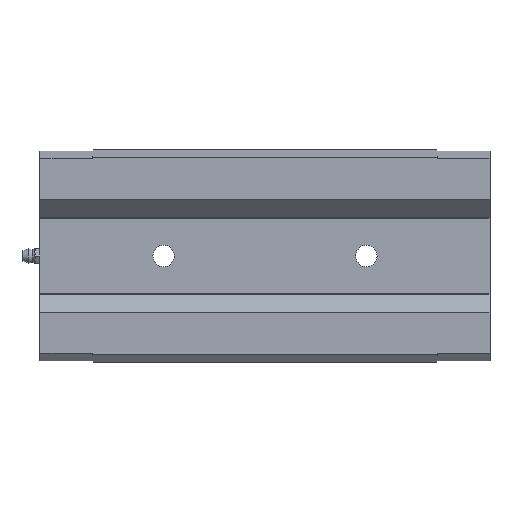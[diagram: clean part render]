
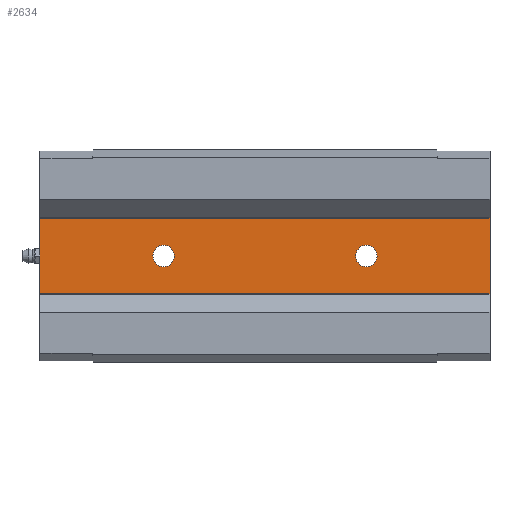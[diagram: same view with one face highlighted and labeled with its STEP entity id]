
A CAD part, front view. The second image highlights one B-rep face of the part: STEP entity #2634.
In plain terms, the highlighted planar face has unit normal (0, -1, 0).
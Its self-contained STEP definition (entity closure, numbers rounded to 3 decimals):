
#187=CIRCLE('',#2885,5.053);
#188=CIRCLE('',#2886,5.053);
#737=ORIENTED_EDGE('',*,*,#1208,.F.);
#738=ORIENTED_EDGE('',*,*,#1209,.F.);
#739=ORIENTED_EDGE('',*,*,#1034,.F.);
#740=ORIENTED_EDGE('',*,*,#1207,.F.);
#741=ORIENTED_EDGE('',*,*,#977,.T.);
#742=ORIENTED_EDGE('',*,*,#1210,.T.);
#977=EDGE_CURVE('',#1329,#1328,#1575,.T.);
#1034=EDGE_CURVE('',#1382,#1383,#1611,.T.);
#1207=EDGE_CURVE('',#1329,#1382,#1757,.T.);
#1208=EDGE_CURVE('',#1477,#1477,#187,.T.);
#1209=EDGE_CURVE('',#1478,#1478,#188,.T.);
#1210=EDGE_CURVE('',#1328,#1383,#1758,.T.);
#1328=VERTEX_POINT('',#3867);
#1329=VERTEX_POINT('',#3869);
#1382=VERTEX_POINT('',#3979);
#1383=VERTEX_POINT('',#3981);
#1477=VERTEX_POINT('',#4330);
#1478=VERTEX_POINT('',#4332);
#1575=LINE('',#3868,#1793);
#1611=LINE('',#3980,#1829);
#1757=LINE('',#4327,#1975);
#1758=LINE('',#4333,#1976);
#1793=VECTOR('',#3072,1000.);
#1829=VECTOR('',#3152,1000.);
#1975=VECTOR('',#3512,1000.);
#1976=VECTOR('',#3519,1000.);
#2089=EDGE_LOOP('',(#737));
#2090=EDGE_LOOP('',(#738));
#2091=EDGE_LOOP('',(#739,#740,#741,#742));
#2321=FACE_BOUND('',#2089,.T.);
#2322=FACE_BOUND('',#2090,.T.);
#2323=FACE_BOUND('',#2091,.T.);
#2521=PLANE('',#2884);
#2634=ADVANCED_FACE('',(#2321,#2322,#2323),#2521,.T.);
#2884=AXIS2_PLACEMENT_3D('',#4328,#3513,#3514);
#2885=AXIS2_PLACEMENT_3D('',#4329,#3515,#3516);
#2886=AXIS2_PLACEMENT_3D('',#4331,#3517,#3518);
#3072=DIRECTION('',(0.,0.,1.));
#3152=DIRECTION('',(0.,0.,1.));
#3512=DIRECTION('',(-1.,0.,0.));
#3513=DIRECTION('',(0.,-1.,0.));
#3514=DIRECTION('',(0.,0.,-1.));
#3515=DIRECTION('',(0.,-1.,0.));
#3516=DIRECTION('',(0.,0.,-1.));
#3517=DIRECTION('',(0.,-1.,0.));
#3518=DIRECTION('',(0.,0.,-1.));
#3519=DIRECTION('',(-1.,0.,0.));
#3867=CARTESIAN_POINT('',(105.5,35.,25.47));
#3868=CARTESIAN_POINT('',(105.5,35.,-25.47));
#3869=CARTESIAN_POINT('',(105.5,35.,-25.47));
#3979=CARTESIAN_POINT('',(-105.5,35.,-25.47));
#3980=CARTESIAN_POINT('',(-105.5,35.,-25.47));
#3981=CARTESIAN_POINT('',(-105.5,35.,25.47));
#4327=CARTESIAN_POINT('',(105.5,35.,-25.47));
#4328=CARTESIAN_POINT('',(105.5,35.,-25.47));
#4329=CARTESIAN_POINT('',(-47.5,35.,0.));
#4330=CARTESIAN_POINT('',(-47.5,35.,-5.053));
#4331=CARTESIAN_POINT('',(47.5,35.,0.));
#4332=CARTESIAN_POINT('',(47.5,35.,-5.053));
#4333=CARTESIAN_POINT('',(105.5,35.,25.47));
